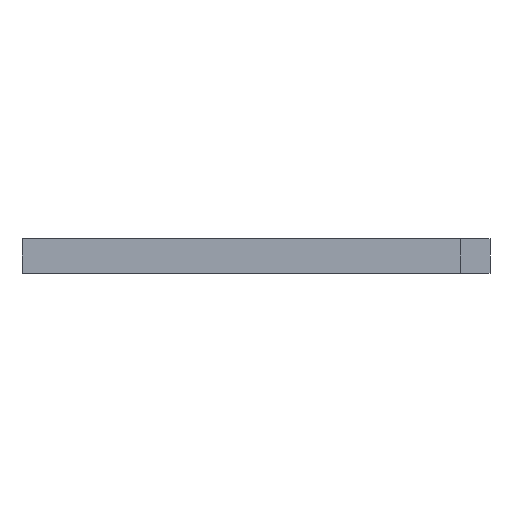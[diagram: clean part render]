
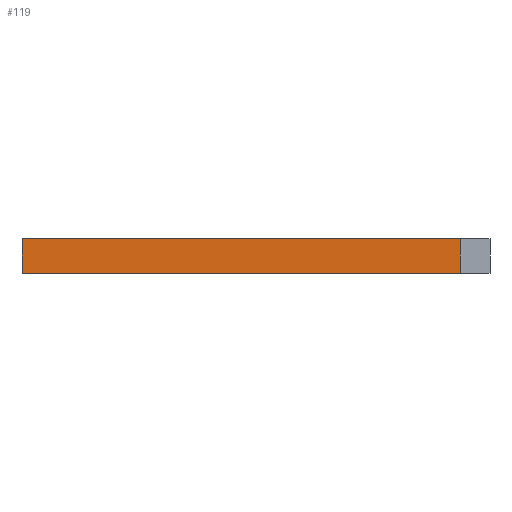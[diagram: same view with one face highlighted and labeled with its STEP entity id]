
A CAD part, left-side view. The second image highlights one B-rep face of the part: STEP entity #119.
In plain terms, the highlighted planar face has unit normal (-1, 0, 0).
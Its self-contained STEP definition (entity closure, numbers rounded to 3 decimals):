
#45 = EDGE_CURVE ( 'NONE', #756, #404, #864, .T. ) ;
#91 = AXIS2_PLACEMENT_3D ( 'NONE', #954, #198, #319 ) ;
#100 = CARTESIAN_POINT ( 'NONE',  ( -52., -57., 8. ) ) ;
#119 = ADVANCED_FACE ( 'NONE', ( #417 ), #1071, .F. ) ;
#139 = EDGE_CURVE ( 'NONE', #756, #762, #754, .T. ) ;
#198 = DIRECTION ( 'NONE',  ( 1., 0., 0. ) ) ;
#318 = EDGE_CURVE ( 'NONE', #404, #393, #544, .T. ) ;
#319 = DIRECTION ( 'NONE',  ( 0., 0., -1. ) ) ;
#356 = ORIENTED_EDGE ( 'NONE', *, *, #45, .F. ) ;
#393 = VERTEX_POINT ( 'NONE', #876 ) ;
#402 = LINE ( 'NONE', #488, #580 ) ;
#404 = VERTEX_POINT ( 'NONE', #100 ) ;
#417 = FACE_OUTER_BOUND ( 'NONE', #1274, .T. ) ;
#456 = CARTESIAN_POINT ( 'NONE',  ( -52., -57., 8. ) ) ;
#481 = ORIENTED_EDGE ( 'NONE', *, *, #318, .F. ) ;
#488 = CARTESIAN_POINT ( 'NONE',  ( -52., 46., 0. ) ) ;
#544 = LINE ( 'NONE', #456, #696 ) ;
#576 = VECTOR ( 'NONE', #1419, 1000. ) ;
#580 = VECTOR ( 'NONE', #1373, 1000. ) ;
#660 = DIRECTION ( 'NONE',  ( 0., -1., 0. ) ) ;
#696 = VECTOR ( 'NONE', #1205, 1000. ) ;
#754 = LINE ( 'NONE', #961, #576 ) ;
#756 = VERTEX_POINT ( 'NONE', #770 ) ;
#762 = VERTEX_POINT ( 'NONE', #1323 ) ;
#770 = CARTESIAN_POINT ( 'NONE',  ( -52., 46., 8. ) ) ;
#864 = LINE ( 'NONE', #1077, #1267 ) ;
#876 = CARTESIAN_POINT ( 'NONE',  ( -52., -57., 0. ) ) ;
#954 = CARTESIAN_POINT ( 'NONE',  ( -52., 46., 8. ) ) ;
#961 = CARTESIAN_POINT ( 'NONE',  ( -52., 46., 8. ) ) ;
#1071 = PLANE ( 'NONE',  #91 ) ;
#1077 = CARTESIAN_POINT ( 'NONE',  ( -52., 46., 8. ) ) ;
#1106 = EDGE_CURVE ( 'NONE', #762, #393, #402, .T. ) ;
#1158 = ORIENTED_EDGE ( 'NONE', *, *, #139, .T. ) ;
#1205 = DIRECTION ( 'NONE',  ( 0., 0., -1. ) ) ;
#1267 = VECTOR ( 'NONE', #660, 1000. ) ;
#1274 = EDGE_LOOP ( 'NONE', ( #1372, #481, #356, #1158 ) ) ;
#1323 = CARTESIAN_POINT ( 'NONE',  ( -52., 46., 0. ) ) ;
#1372 = ORIENTED_EDGE ( 'NONE', *, *, #1106, .T. ) ;
#1373 = DIRECTION ( 'NONE',  ( 0., -1., 0. ) ) ;
#1419 = DIRECTION ( 'NONE',  ( 0., 0., -1. ) ) ;
